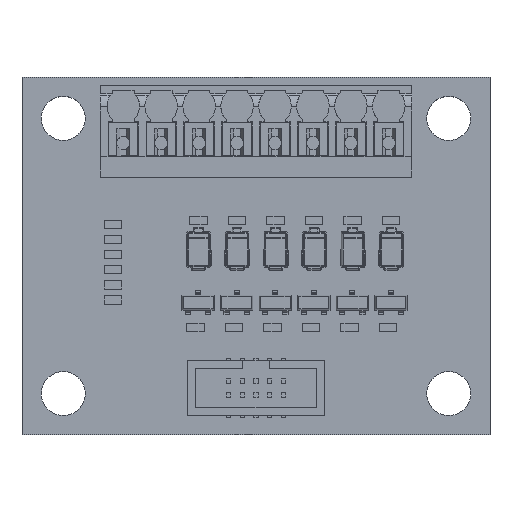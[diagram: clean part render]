
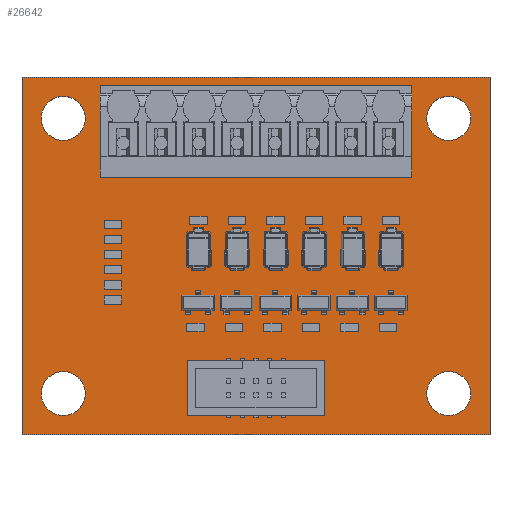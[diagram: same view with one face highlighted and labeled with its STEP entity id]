
A CAD part, top view. The second image highlights one B-rep face of the part: STEP entity #26642.
In plain terms, the highlighted planar face has unit normal (0, 0, 1).
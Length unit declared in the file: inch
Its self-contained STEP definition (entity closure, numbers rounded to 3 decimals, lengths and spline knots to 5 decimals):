
#1412 = ORIENTED_EDGE ( 'NONE', *, *, #37013, .F. ) ;
#1419 = CIRCLE ( 'NONE', #6834, 0.08 ) ;
#1764 = FACE_OUTER_BOUND ( 'NONE', #62906, .T. ) ;
#1827 = CIRCLE ( 'NONE', #58794, 0.08 ) ;
#2105 = ORIENTED_EDGE ( 'NONE', *, *, #58687, .F. ) ;
#2361 = CARTESIAN_POINT ( 'NONE',  ( 0.7, 0.5, 0.065 ) ) ;
#2525 = VERTEX_POINT ( 'NONE', #53753 ) ;
#2642 = DIRECTION ( 'NONE',  ( -1., 0., 0. ) ) ;
#5583 = EDGE_CURVE ( 'NONE', #71999, #48501, #1419, .T. ) ;
#6060 = ORIENTED_EDGE ( 'NONE', *, *, #14229, .F. ) ;
#6372 = CARTESIAN_POINT ( 'NONE',  ( 0.85, 0., 0.065 ) ) ;
#6834 = AXIS2_PLACEMENT_3D ( 'NONE', #7188, #69619, #43199 ) ;
#7188 = CARTESIAN_POINT ( 'NONE',  ( -0.7, -0.5, 0.065 ) ) ;
#7922 = CARTESIAN_POINT ( 'NONE',  ( -0.85, -0.65, 0.065 ) ) ;
#8044 = DIRECTION ( 'NONE',  ( -1., 0., 0. ) ) ;
#8521 = CARTESIAN_POINT ( 'NONE',  ( 0.7, -0.5, 0.065 ) ) ;
#8798 = AXIS2_PLACEMENT_3D ( 'NONE', #2361, #41860, #8044 ) ;
#9878 = LINE ( 'NONE', #31908, #38138 ) ;
#10621 = CIRCLE ( 'NONE', #61133, 0.08 ) ;
#13196 = CARTESIAN_POINT ( 'NONE',  ( 0., 0., 0.065 ) ) ;
#13335 = CARTESIAN_POINT ( 'NONE',  ( -0.85, 0., 0.065 ) ) ;
#13656 = CARTESIAN_POINT ( 'NONE',  ( -0.7, 0.5, 0.065 ) ) ;
#14229 = EDGE_CURVE ( 'NONE', #38823, #15495, #29209, .T. ) ;
#14237 = DIRECTION ( 'NONE',  ( -1., 0., 0. ) ) ;
#14450 = LINE ( 'NONE', #34934, #42677 ) ;
#14464 = LINE ( 'NONE', #13335, #29415 ) ;
#15495 = VERTEX_POINT ( 'NONE', #45718 ) ;
#16448 = EDGE_CURVE ( 'NONE', #39563, #40551, #36735, .T. ) ;
#16551 = CIRCLE ( 'NONE', #8798, 0.08 ) ;
#16832 = FACE_BOUND ( 'NONE', #34772, .T. ) ;
#18283 = AXIS2_PLACEMENT_3D ( 'NONE', #24145, #63546, #29898 ) ;
#18305 = VERTEX_POINT ( 'NONE', #71347 ) ;
#18877 = DIRECTION ( 'NONE',  ( -1., 0., 0. ) ) ;
#19322 = DIRECTION ( 'NONE',  ( -1., 0., 0. ) ) ;
#19884 = VERTEX_POINT ( 'NONE', #23241 ) ;
#20660 = AXIS2_PLACEMENT_3D ( 'NONE', #70120, #36486, #2642 ) ;
#21201 = CARTESIAN_POINT ( 'NONE',  ( 0.85, 0.65, 0.065 ) ) ;
#22754 = CIRCLE ( 'NONE', #57305, 0.08 ) ;
#22791 = EDGE_CURVE ( 'NONE', #18305, #44578, #72659, .T. ) ;
#22800 = VERTEX_POINT ( 'NONE', #7922 ) ;
#23241 = CARTESIAN_POINT ( 'NONE',  ( -0.85, 0.65, 0.065 ) ) ;
#23780 = ORIENTED_EDGE ( 'NONE', *, *, #58051, .F. ) ;
#24145 = CARTESIAN_POINT ( 'NONE',  ( 0.7, -0.5, 0.065 ) ) ;
#24212 = EDGE_LOOP ( 'NONE', ( #34689, #28439 ) ) ;
#25968 = ORIENTED_EDGE ( 'NONE', *, *, #22791, .F. ) ;
#26238 = DIRECTION ( 'NONE',  ( 1., 0., 0. ) ) ;
#26642 = ADVANCED_FACE ( 'NONE', ( #46795, #61717, #31788, #16832, #1764 ), #46478, .F. ) ;
#26654 = DIRECTION ( 'NONE',  ( 0., 0., 1. ) ) ;
#27568 = ORIENTED_EDGE ( 'NONE', *, *, #48748, .F. ) ;
#27724 = DIRECTION ( 'NONE',  ( 0., 0., 1. ) ) ;
#28439 = ORIENTED_EDGE ( 'NONE', *, *, #29566, .F. ) ;
#28563 = EDGE_CURVE ( 'NONE', #44578, #18305, #1827, .T. ) ;
#29209 = LINE ( 'NONE', #6372, #59187 ) ;
#29415 = VECTOR ( 'NONE', #69152, 39.37008 ) ;
#29494 = DIRECTION ( 'NONE',  ( -1., 0., 0. ) ) ;
#29566 = EDGE_CURVE ( 'NONE', #40551, #39563, #16551, .T. ) ;
#29898 = DIRECTION ( 'NONE',  ( -1., 0., 0. ) ) ;
#29949 = CARTESIAN_POINT ( 'NONE',  ( 0.62, 0.5, 0.065 ) ) ;
#31788 = FACE_BOUND ( 'NONE', #35462, .T. ) ;
#31908 = CARTESIAN_POINT ( 'NONE',  ( 0., 0.65, 0.065 ) ) ;
#34119 = AXIS2_PLACEMENT_3D ( 'NONE', #13196, #52648, #18877 ) ;
#34689 = ORIENTED_EDGE ( 'NONE', *, *, #16448, .F. ) ;
#34772 = EDGE_LOOP ( 'NONE', ( #1412, #43025 ) ) ;
#34934 = CARTESIAN_POINT ( 'NONE',  ( 0., -0.65, 0.065 ) ) ;
#35462 = EDGE_LOOP ( 'NONE', ( #27568, #2105 ) ) ;
#36486 = DIRECTION ( 'NONE',  ( 0., 0., 1. ) ) ;
#36735 = CIRCLE ( 'NONE', #20660, 0.08 ) ;
#37013 = EDGE_CURVE ( 'NONE', #48501, #71999, #22754, .T. ) ;
#38138 = VECTOR ( 'NONE', #26238, 39.37008 ) ;
#38823 = VERTEX_POINT ( 'NONE', #21201 ) ;
#39563 = VERTEX_POINT ( 'NONE', #29949 ) ;
#40551 = VERTEX_POINT ( 'NONE', #58749 ) ;
#40896 = AXIS2_PLACEMENT_3D ( 'NONE', #13656, #53090, #19322 ) ;
#41860 = DIRECTION ( 'NONE',  ( 0., 0., 1. ) ) ;
#42677 = VECTOR ( 'NONE', #29494, 39.37008 ) ;
#42771 = CARTESIAN_POINT ( 'NONE',  ( 0.78, -0.5, 0.065 ) ) ;
#43025 = ORIENTED_EDGE ( 'NONE', *, *, #5583, .F. ) ;
#43199 = DIRECTION ( 'NONE',  ( -1., 0., 0. ) ) ;
#44578 = VERTEX_POINT ( 'NONE', #63000 ) ;
#45649 = DIRECTION ( 'NONE',  ( 0., -1., 0. ) ) ;
#45718 = CARTESIAN_POINT ( 'NONE',  ( 0.85, -0.65, 0.065 ) ) ;
#45777 = VERTEX_POINT ( 'NONE', #42771 ) ;
#46478 = PLANE ( 'NONE',  #34119 ) ;
#46795 = FACE_BOUND ( 'NONE', #66640, .T. ) ;
#48008 = DIRECTION ( 'NONE',  ( 0., 0., 1. ) ) ;
#48181 = ORIENTED_EDGE ( 'NONE', *, *, #59980, .F. ) ;
#48501 = VERTEX_POINT ( 'NONE', #66814 ) ;
#48748 = EDGE_CURVE ( 'NONE', #2525, #45777, #61676, .T. ) ;
#52648 = DIRECTION ( 'NONE',  ( 0., 0., -1. ) ) ;
#53090 = DIRECTION ( 'NONE',  ( 0., 0., 1. ) ) ;
#53753 = CARTESIAN_POINT ( 'NONE',  ( 0.62, -0.5, 0.065 ) ) ;
#55643 = ORIENTED_EDGE ( 'NONE', *, *, #28563, .F. ) ;
#57305 = AXIS2_PLACEMENT_3D ( 'NONE', #61447, #27724, #67085 ) ;
#58051 = EDGE_CURVE ( 'NONE', #22800, #19884, #14464, .T. ) ;
#58687 = EDGE_CURVE ( 'NONE', #45777, #2525, #10621, .T. ) ;
#58749 = CARTESIAN_POINT ( 'NONE',  ( 0.78, 0.5, 0.065 ) ) ;
#58794 = AXIS2_PLACEMENT_3D ( 'NONE', #60418, #26654, #65999 ) ;
#59187 = VECTOR ( 'NONE', #45649, 39.37008 ) ;
#59407 = CARTESIAN_POINT ( 'NONE',  ( -0.62, -0.5, 0.065 ) ) ;
#59690 = EDGE_CURVE ( 'NONE', #15495, #22800, #14450, .T. ) ;
#59980 = EDGE_CURVE ( 'NONE', #19884, #38823, #9878, .T. ) ;
#60418 = CARTESIAN_POINT ( 'NONE',  ( -0.7, 0.5, 0.065 ) ) ;
#61133 = AXIS2_PLACEMENT_3D ( 'NONE', #8521, #48008, #14237 ) ;
#61447 = CARTESIAN_POINT ( 'NONE',  ( -0.7, -0.5, 0.065 ) ) ;
#61676 = CIRCLE ( 'NONE', #18283, 0.08 ) ;
#61717 = FACE_BOUND ( 'NONE', #24212, .T. ) ;
#62906 = EDGE_LOOP ( 'NONE', ( #70256, #6060, #48181, #23780 ) ) ;
#63000 = CARTESIAN_POINT ( 'NONE',  ( -0.78, 0.5, 0.065 ) ) ;
#63546 = DIRECTION ( 'NONE',  ( 0., 0., 1. ) ) ;
#65999 = DIRECTION ( 'NONE',  ( -1., 0., 0. ) ) ;
#66640 = EDGE_LOOP ( 'NONE', ( #55643, #25968 ) ) ;
#66814 = CARTESIAN_POINT ( 'NONE',  ( -0.78, -0.5, 0.065 ) ) ;
#67085 = DIRECTION ( 'NONE',  ( -1., 0., 0. ) ) ;
#69152 = DIRECTION ( 'NONE',  ( 0., 1., 0. ) ) ;
#69619 = DIRECTION ( 'NONE',  ( 0., 0., 1. ) ) ;
#70120 = CARTESIAN_POINT ( 'NONE',  ( 0.7, 0.5, 0.065 ) ) ;
#70256 = ORIENTED_EDGE ( 'NONE', *, *, #59690, .F. ) ;
#71347 = CARTESIAN_POINT ( 'NONE',  ( -0.62, 0.5, 0.065 ) ) ;
#71999 = VERTEX_POINT ( 'NONE', #59407 ) ;
#72659 = CIRCLE ( 'NONE', #40896, 0.08 ) ;
